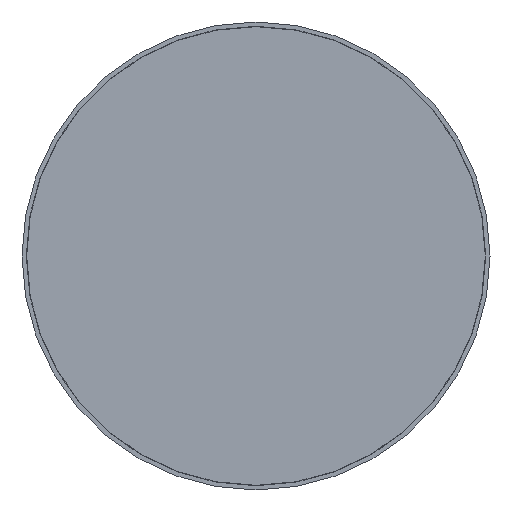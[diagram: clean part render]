
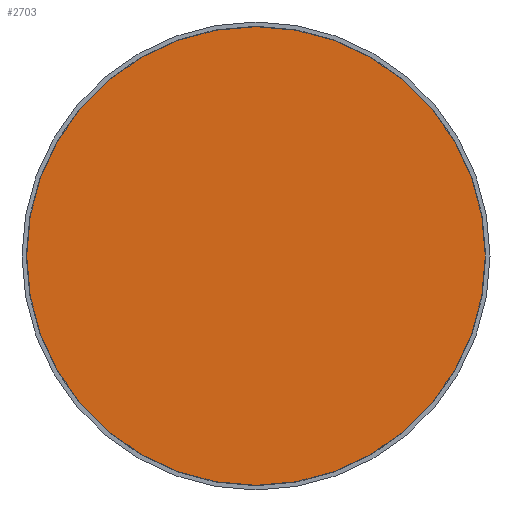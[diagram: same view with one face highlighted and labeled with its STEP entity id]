
A CAD part, top view. The second image highlights one B-rep face of the part: STEP entity #2703.
In plain terms, the highlighted planar face has unit normal (0, 0, 1).
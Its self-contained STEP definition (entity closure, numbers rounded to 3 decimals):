
#631=PLANE('',#2967);
#826=FACE_OUTER_BOUND('',#1017,.T.);
#1017=EDGE_LOOP('',(#2480));
#1125=CIRCLE('',#2965,637.);
#1376=VERTEX_POINT('',#5876);
#1747=EDGE_CURVE('',#1376,#1376,#1125,.T.);
#2480=ORIENTED_EDGE('',*,*,#1747,.T.);
#2703=ADVANCED_FACE('',(#826),#631,.T.);
#2965=AXIS2_PLACEMENT_3D('',#5877,#3664,#3665);
#2967=AXIS2_PLACEMENT_3D('',#5879,#3668,#3669);
#3664=DIRECTION('center_axis',(0.,0.,1.));
#3665=DIRECTION('ref_axis',(1.,0.,0.));
#3668=DIRECTION('center_axis',(0.,0.,1.));
#3669=DIRECTION('ref_axis',(1.,0.,0.));
#5876=CARTESIAN_POINT('',(-53.441,-3039.963,362.));
#5877=CARTESIAN_POINT('Origin',(-690.441,-3039.963,362.));
#5879=CARTESIAN_POINT('Origin',(-690.441,-3039.963,362.));
